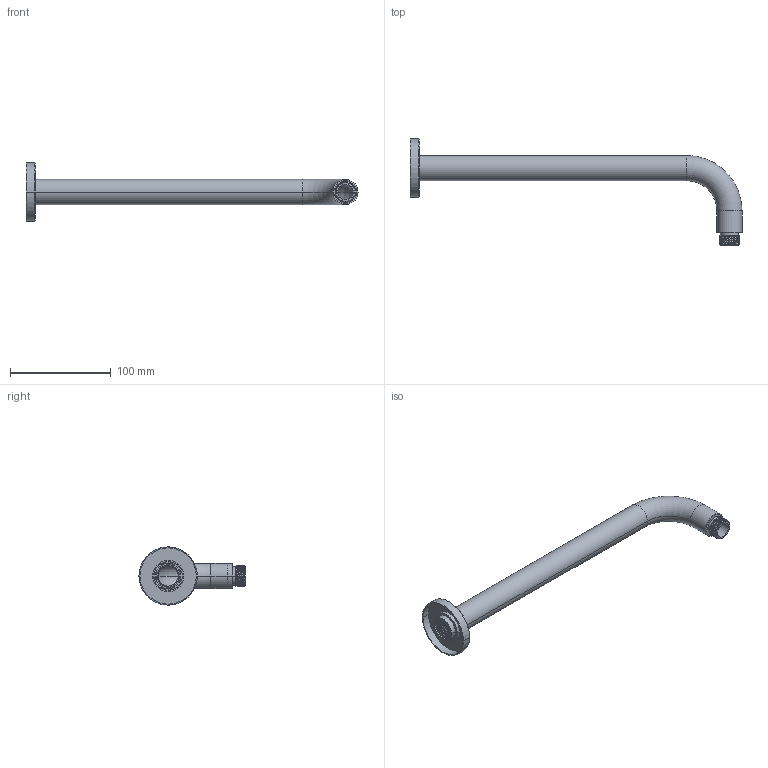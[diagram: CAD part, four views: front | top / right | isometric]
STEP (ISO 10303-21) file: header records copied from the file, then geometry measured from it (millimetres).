
FILE_DESCRIPTION((''),'2;1');
FILE_NAME('UB400_ASM','2021-07-10T',('Administrator'),(''),'PRO/ENGINEER BY PARAMETRIC TECHNOLOGY CORPORATION, 2009440','PRO/ENGINEER BY PARAMETRIC TECHNOLOGY CORPORATION, 2009440','');
FILE_SCHEMA(('CONFIG_CONTROL_DESIGN'));
Length unit declared in the file: millimetre
Products named in the file (8): A01; A02; ASM01_ASM; B01; B02; B01_ASM; HGJ; UB400_ASM
Assembly tree (7 placements, depth 3):
  UB400_ASM
    ASM01_ASM
      A01
      A02
    B01_ASM
      B01
      B02
    HGJ
Bounding box: 330 x 105.5 x 58 mm (x, y, z)
Volume: 35354.7 mm3; surface area: 69224.6 mm2
Topology: 5 solids, 5 shells, 108 faces, 254 edges, 160 vertices
Faces by surface type: cylinder 58, bspline 18, plane 14, torus 12, cone 6
Entity records: 9092 total; most frequent: CARTESIAN_POINT 6559, ORIENTED_EDGE 508, DIRECTION 468, EDGE_CURVE 254, AXIS2_PLACEMENT_3D 197, VERTEX_POINT 160, EDGE_LOOP 122, FACE_OUTER_BOUND 108
